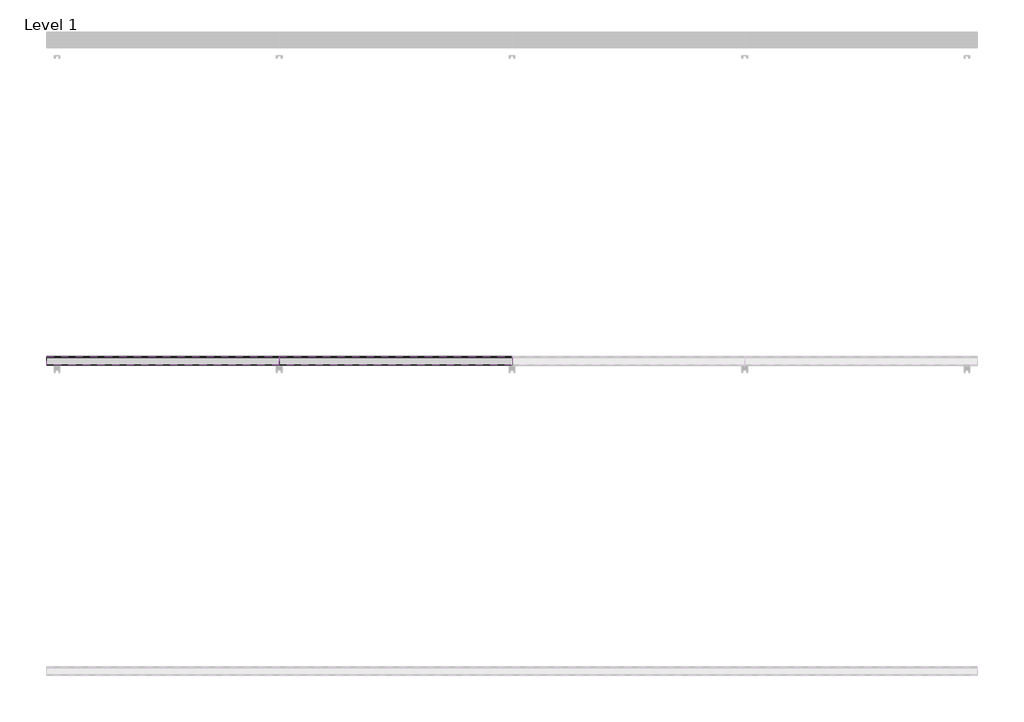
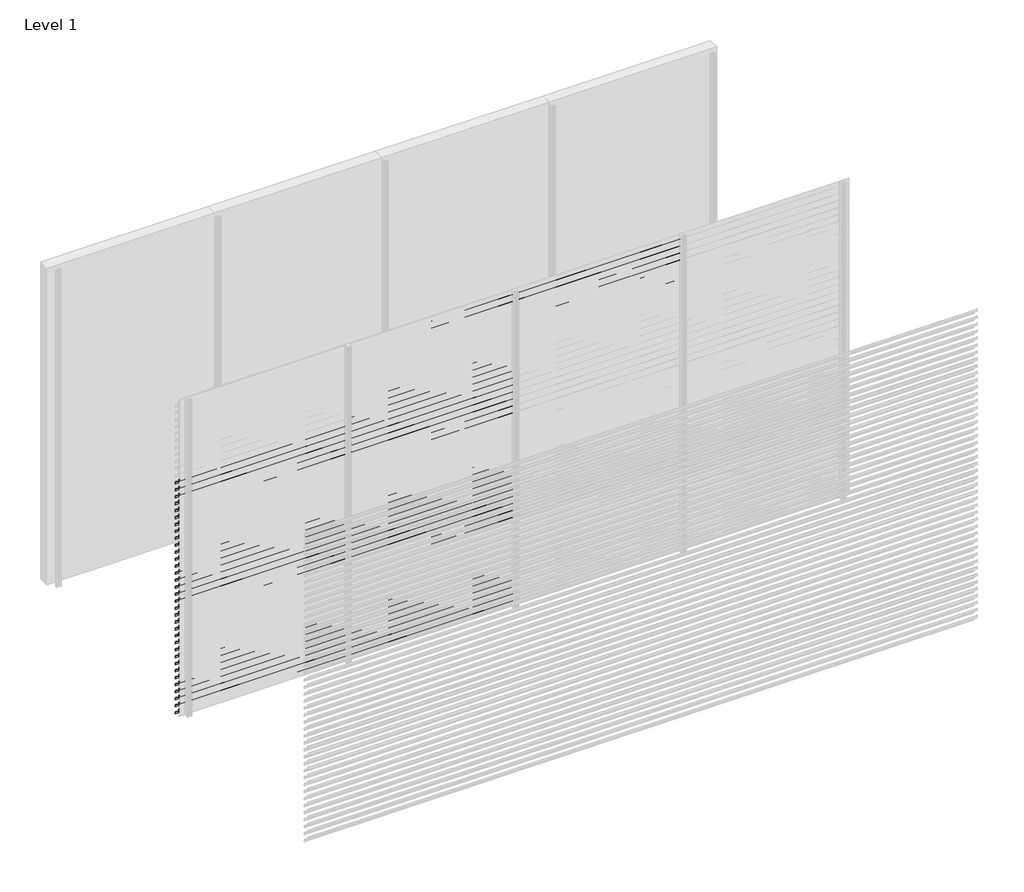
# One storey, part 19 of 25: 87 proxies.
"""IFC4 building model written with IfcOpenShell, lengths in millimetres."""

from ifc_helpers import new_model, si_unit, frame, origin, place, context, project, spatial, polyline, outline, extrude, element, save

model = new_model("IFC4")

# Units and contexts
model_context = context("Model", 3, world=origin())
ifc_project = project(units=[si_unit("LENGTHUNIT", "METRE", prefix="MILLI")], contexts=[model_context])

# Site, building, storey
site = spatial("IfcSite", under=ifc_project)
building = spatial("IfcBuilding", under=site)
storey = spatial("IfcBuildingStorey", under=building, Name="Level 1", Elevation=0.0)

# Proxies
placement = place(None, origin())
element("IfcBuildingElementProxy", 1, Name="Wall Sweeps", at=placement, inside=storey, context=model_context, shape_type="SweptSolid", body=[
    extrude(outline(polyline([(-11943.0, 2187.5), (-11943.0, 2167.5), (-11944.25, 2168.2216933), (-11944.25, 2186.7872415), (-11998.0, 2224.3158044), (-11998.0, 2244.0), (-11996.75, 2244.0), (-11996.75, 2225.0285629), (-11943.0, 2187.5)])), frame((0.0, 0.0, 0.0), z_axis=(1.0, 0.0, 0.0), x_axis=(0.0, 1.0, 0.0)), (0.0, 0.0, 1.0), 1500.0),
])
element("IfcBuildingElementProxy", 2, Name="Wall Sweeps", at=placement, inside=storey, context=model_context, shape_type="SweptSolid", body=[
    extrude(outline(polyline([(-11943.0, 2121.5), (-11943.0, 2101.5), (-11944.25, 2102.2216933), (-11944.25, 2120.7872415), (-11998.0, 2158.3158044), (-11998.0, 2178.0), (-11996.75, 2178.0), (-11996.75, 2159.0285629), (-11943.0, 2121.5)])), frame((0.0, 0.0, 0.0), z_axis=(1.0, 0.0, 0.0), x_axis=(0.0, 1.0, 0.0)), (0.0, 0.0, 1.0), 1500.0),
])
element("IfcBuildingElementProxy", 3, Name="Wall Sweeps", at=placement, inside=storey, context=model_context, shape_type="SweptSolid", body=[
    extrude(outline(polyline([(-11943.0, 2055.5), (-11943.0, 2035.5), (-11944.25, 2036.2216933), (-11944.25, 2054.7872415), (-11998.0, 2092.3158044), (-11998.0, 2112.0), (-11996.75, 2112.0), (-11996.75, 2093.0285629), (-11943.0, 2055.5)])), frame((0.0, 0.0, 0.0), z_axis=(1.0, 0.0, 0.0), x_axis=(0.0, 1.0, 0.0)), (0.0, 0.0, 1.0), 1500.0),
])
element("IfcBuildingElementProxy", 4, Name="Wall Sweeps", at=placement, inside=storey, context=model_context, shape_type="SweptSolid", body=[
    extrude(outline(polyline([(-11943.0, 1989.5), (-11943.0, 1969.5), (-11944.25, 1970.2216933), (-11944.25, 1988.7872415), (-11998.0, 2026.3158044), (-11998.0, 2046.0), (-11996.75, 2046.0), (-11996.75, 2027.0285629), (-11943.0, 1989.5)])), frame((0.0, 0.0, 0.0), z_axis=(1.0, 0.0, 0.0), x_axis=(0.0, 1.0, 0.0)), (0.0, 0.0, 1.0), 1500.0),
])
element("IfcBuildingElementProxy", 5, Name="Wall Sweeps", at=placement, inside=storey, context=model_context, shape_type="SweptSolid", body=[
    extrude(outline(polyline([(-11943.0, 1923.5), (-11943.0, 1903.5), (-11944.25, 1904.2216933), (-11944.25, 1922.7872415), (-11998.0, 1960.3158044), (-11998.0, 1980.0), (-11996.75, 1980.0), (-11996.75, 1961.0285629), (-11943.0, 1923.5)])), frame((0.0, 0.0, 0.0), z_axis=(1.0, 0.0, 0.0), x_axis=(0.0, 1.0, 0.0)), (0.0, 0.0, 1.0), 1500.0),
])
element("IfcBuildingElementProxy", 6, Name="Wall Sweeps", at=placement, inside=storey, context=model_context, shape_type="SweptSolid", body=[
    extrude(outline(polyline([(-11943.0, 1857.5), (-11943.0, 1837.5), (-11944.25, 1838.2216933), (-11944.25, 1856.7872415), (-11998.0, 1894.3158044), (-11998.0, 1914.0), (-11996.75, 1914.0), (-11996.75, 1895.0285629), (-11943.0, 1857.5)])), frame((0.0, 0.0, 0.0), z_axis=(1.0, 0.0, 0.0), x_axis=(0.0, 1.0, 0.0)), (0.0, 0.0, 1.0), 1500.0),
])
element("IfcBuildingElementProxy", 7, Name="Wall Sweeps", at=placement, inside=storey, context=model_context, shape_type="SweptSolid", body=[
    extrude(outline(polyline([(-11943.0, 1791.5), (-11943.0, 1771.5), (-11944.25, 1772.2216933), (-11944.25, 1790.7872415), (-11998.0, 1828.3158044), (-11998.0, 1848.0), (-11996.75, 1848.0), (-11996.75, 1829.0285629), (-11943.0, 1791.5)])), frame((0.0, 0.0, 0.0), z_axis=(1.0, 0.0, 0.0), x_axis=(0.0, 1.0, 0.0)), (0.0, 0.0, 1.0), 1500.0),
])
element("IfcBuildingElementProxy", 8, Name="Wall Sweeps", at=placement, inside=storey, context=model_context, shape_type="SweptSolid", body=[
    extrude(outline(polyline([(-11943.0, 1725.5), (-11943.0, 1705.5), (-11944.25, 1706.2216933), (-11944.25, 1724.7872415), (-11998.0, 1762.3158044), (-11998.0, 1782.0), (-11996.75, 1782.0), (-11996.75, 1763.0285629), (-11943.0, 1725.5)])), frame((0.0, 0.0, 0.0), z_axis=(1.0, 0.0, 0.0), x_axis=(0.0, 1.0, 0.0)), (0.0, 0.0, 1.0), 1500.0),
])
element("IfcBuildingElementProxy", 9, Name="Wall Sweeps", at=placement, inside=storey, context=model_context, shape_type="SweptSolid", body=[
    extrude(outline(polyline([(-11943.0, 1659.5), (-11943.0, 1639.5), (-11944.25, 1640.2216933), (-11944.25, 1658.7872415), (-11998.0, 1696.3158044), (-11998.0, 1716.0), (-11996.75, 1716.0), (-11996.75, 1697.0285629), (-11943.0, 1659.5)])), frame((0.0, 0.0, 0.0), z_axis=(1.0, 0.0, 0.0), x_axis=(0.0, 1.0, 0.0)), (0.0, 0.0, 1.0), 1500.0),
])
element("IfcBuildingElementProxy", 10, Name="Wall Sweeps", at=placement, inside=storey, context=model_context, shape_type="SweptSolid", body=[
    extrude(outline(polyline([(-11943.0, 1593.5), (-11943.0, 1573.5), (-11944.25, 1574.2216933), (-11944.25, 1592.7872415), (-11998.0, 1630.3158044), (-11998.0, 1650.0), (-11996.75, 1650.0), (-11996.75, 1631.0285629), (-11943.0, 1593.5)])), frame((0.0, 0.0, 0.0), z_axis=(1.0, 0.0, 0.0), x_axis=(0.0, 1.0, 0.0)), (0.0, 0.0, 1.0), 1500.0),
])
element("IfcBuildingElementProxy", 11, Name="Wall Sweeps", at=placement, inside=storey, context=model_context, shape_type="SweptSolid", body=[
    extrude(outline(polyline([(-11943.0, 1527.5), (-11943.0, 1507.5), (-11944.25, 1508.2216933), (-11944.25, 1526.7872415), (-11998.0, 1564.3158044), (-11998.0, 1584.0), (-11996.75, 1584.0), (-11996.75, 1565.0285629), (-11943.0, 1527.5)])), frame((0.0, 0.0, 0.0), z_axis=(1.0, 0.0, 0.0), x_axis=(0.0, 1.0, 0.0)), (0.0, 0.0, 1.0), 1500.0),
])
element("IfcBuildingElementProxy", 12, Name="Wall Sweeps", at=placement, inside=storey, context=model_context, shape_type="SweptSolid", body=[
    extrude(outline(polyline([(-11943.0, 1461.5), (-11943.0, 1441.5), (-11944.25, 1442.2216933), (-11944.25, 1460.7872415), (-11998.0, 1498.3158044), (-11998.0, 1518.0), (-11996.75, 1518.0), (-11996.75, 1499.0285629), (-11943.0, 1461.5)])), frame((0.0, 0.0, 0.0), z_axis=(1.0, 0.0, 0.0), x_axis=(0.0, 1.0, 0.0)), (0.0, 0.0, 1.0), 1500.0),
])
element("IfcBuildingElementProxy", 13, Name="Wall Sweeps", at=placement, inside=storey, context=model_context, shape_type="SweptSolid", body=[
    extrude(outline(polyline([(-11943.0, 1395.5), (-11943.0, 1375.5), (-11944.25, 1376.2216933), (-11944.25, 1394.7872415), (-11998.0, 1432.3158044), (-11998.0, 1452.0), (-11996.75, 1452.0), (-11996.75, 1433.0285629), (-11943.0, 1395.5)])), frame((0.0, 0.0, 0.0), z_axis=(1.0, 0.0, 0.0), x_axis=(0.0, 1.0, 0.0)), (0.0, 0.0, 1.0), 1500.0),
])
element("IfcBuildingElementProxy", 14, Name="Wall Sweeps", at=placement, inside=storey, context=model_context, shape_type="SweptSolid", body=[
    extrude(outline(polyline([(-11943.0, 1329.5), (-11943.0, 1309.5), (-11944.25, 1310.2216933), (-11944.25, 1328.7872415), (-11998.0, 1366.3158044), (-11998.0, 1386.0), (-11996.75, 1386.0), (-11996.75, 1367.0285629), (-11943.0, 1329.5)])), frame((0.0, 0.0, 0.0), z_axis=(1.0, 0.0, 0.0), x_axis=(0.0, 1.0, 0.0)), (0.0, 0.0, 1.0), 1500.0),
])
element("IfcBuildingElementProxy", 15, Name="Wall Sweeps", at=placement, inside=storey, context=model_context, shape_type="SweptSolid", body=[
    extrude(outline(polyline([(-11943.0, 1263.5), (-11943.0, 1243.5), (-11944.25, 1244.2216933), (-11944.25, 1262.7872415), (-11998.0, 1300.3158044), (-11998.0, 1320.0), (-11996.75, 1320.0), (-11996.75, 1301.0285629), (-11943.0, 1263.5)])), frame((0.0, 0.0, 0.0), z_axis=(1.0, 0.0, 0.0), x_axis=(0.0, 1.0, 0.0)), (0.0, 0.0, 1.0), 1500.0),
])
element("IfcBuildingElementProxy", 16, Name="Wall Sweeps", at=placement, inside=storey, context=model_context, shape_type="SweptSolid", body=[
    extrude(outline(polyline([(-11943.0, 1197.5), (-11943.0, 1177.5), (-11944.25, 1178.2216933), (-11944.25, 1196.7872415), (-11998.0, 1234.3158044), (-11998.0, 1254.0), (-11996.75, 1254.0), (-11996.75, 1235.0285629), (-11943.0, 1197.5)])), frame((0.0, 0.0, 0.0), z_axis=(1.0, 0.0, 0.0), x_axis=(0.0, 1.0, 0.0)), (0.0, 0.0, 1.0), 1500.0),
])
element("IfcBuildingElementProxy", 17, Name="Wall Sweeps", at=placement, inside=storey, context=model_context, shape_type="SweptSolid", body=[
    extrude(outline(polyline([(-11943.0, 1131.5), (-11943.0, 1111.5), (-11944.25, 1112.2216933), (-11944.25, 1130.7872415), (-11998.0, 1168.3158044), (-11998.0, 1188.0), (-11996.75, 1188.0), (-11996.75, 1169.0285629), (-11943.0, 1131.5)])), frame((0.0, 0.0, 0.0), z_axis=(1.0, 0.0, 0.0), x_axis=(0.0, 1.0, 0.0)), (0.0, 0.0, 1.0), 1500.0),
])
element("IfcBuildingElementProxy", 18, Name="Wall Sweeps", at=placement, inside=storey, context=model_context, shape_type="SweptSolid", body=[
    extrude(outline(polyline([(-11943.0, 1065.5), (-11943.0, 1045.5), (-11944.25, 1046.2216933), (-11944.25, 1064.7872415), (-11998.0, 1102.3158044), (-11998.0, 1122.0), (-11996.75, 1122.0), (-11996.75, 1103.0285629), (-11943.0, 1065.5)])), frame((0.0, 0.0, 0.0), z_axis=(1.0, 0.0, 0.0), x_axis=(0.0, 1.0, 0.0)), (0.0, 0.0, 1.0), 1500.0),
])
element("IfcBuildingElementProxy", 19, Name="Wall Sweeps", at=placement, inside=storey, context=model_context, shape_type="SweptSolid", body=[
    extrude(outline(polyline([(-11943.0, 999.5), (-11943.0, 979.5), (-11944.25, 980.2216933), (-11944.25, 998.7872415), (-11998.0, 1036.3158044), (-11998.0, 1056.0), (-11996.75, 1056.0), (-11996.75, 1037.0285629), (-11943.0, 999.5)])), frame((0.0, 0.0, 0.0), z_axis=(1.0, 0.0, 0.0), x_axis=(0.0, 1.0, 0.0)), (0.0, 0.0, 1.0), 1500.0),
])
element("IfcBuildingElementProxy", 20, Name="Wall Sweeps", at=placement, inside=storey, context=model_context, shape_type="SweptSolid", body=[
    extrude(outline(polyline([(-11943.0, 933.5), (-11943.0, 913.5), (-11944.25, 914.2216933), (-11944.25, 932.7872415), (-11998.0, 970.3158044), (-11998.0, 990.0), (-11996.75, 990.0), (-11996.75, 971.0285629), (-11943.0, 933.5)])), frame((0.0, 0.0, 0.0), z_axis=(1.0, 0.0, 0.0), x_axis=(0.0, 1.0, 0.0)), (0.0, 0.0, 1.0), 1500.0),
])
element("IfcBuildingElementProxy", 21, Name="Wall Sweeps", at=placement, inside=storey, context=model_context, shape_type="SweptSolid", body=[
    extrude(outline(polyline([(-11943.0, 867.5), (-11943.0, 847.5), (-11944.25, 848.2216933), (-11944.25, 866.7872415), (-11998.0, 904.3158044), (-11998.0, 924.0), (-11996.75, 924.0), (-11996.75, 905.0285629), (-11943.0, 867.5)])), frame((0.0, 0.0, 0.0), z_axis=(1.0, 0.0, 0.0), x_axis=(0.0, 1.0, 0.0)), (0.0, 0.0, 1.0), 1500.0),
])
element("IfcBuildingElementProxy", 22, Name="Wall Sweeps", at=placement, inside=storey, context=model_context, shape_type="SweptSolid", body=[
    extrude(outline(polyline([(-11943.0, 801.5), (-11943.0, 781.5), (-11944.25, 782.2216933), (-11944.25, 800.7872415), (-11998.0, 838.3158044), (-11998.0, 858.0), (-11996.75, 858.0), (-11996.75, 839.0285629), (-11943.0, 801.5)])), frame((0.0, 0.0, 0.0), z_axis=(1.0, 0.0, 0.0), x_axis=(0.0, 1.0, 0.0)), (0.0, 0.0, 1.0), 1500.0),
])
element("IfcBuildingElementProxy", 23, Name="Wall Sweeps", at=placement, inside=storey, context=model_context, shape_type="SweptSolid", body=[
    extrude(outline(polyline([(-11943.0, 735.5), (-11943.0, 715.5), (-11944.25, 716.2216933), (-11944.25, 734.7872415), (-11998.0, 772.3158044), (-11998.0, 792.0), (-11996.75, 792.0), (-11996.75, 773.0285629), (-11943.0, 735.5)])), frame((0.0, 0.0, 0.0), z_axis=(1.0, 0.0, 0.0), x_axis=(0.0, 1.0, 0.0)), (0.0, 0.0, 1.0), 1500.0),
])
element("IfcBuildingElementProxy", 24, Name="Wall Sweeps", at=placement, inside=storey, context=model_context, shape_type="SweptSolid", body=[
    extrude(outline(polyline([(-11943.0, 669.5), (-11943.0, 649.5), (-11944.25, 650.2216933), (-11944.25, 668.7872415), (-11998.0, 706.3158044), (-11998.0, 726.0), (-11996.75, 726.0), (-11996.75, 707.0285629), (-11943.0, 669.5)])), frame((0.0, 0.0, 0.0), z_axis=(1.0, 0.0, 0.0), x_axis=(0.0, 1.0, 0.0)), (0.0, 0.0, 1.0), 1500.0),
])
element("IfcBuildingElementProxy", 25, Name="Wall Sweeps", at=placement, inside=storey, context=model_context, shape_type="SweptSolid", body=[
    extrude(outline(polyline([(-11943.0, 603.5), (-11943.0, 583.5), (-11944.25, 584.2216933), (-11944.25, 602.7872415), (-11998.0, 640.3158044), (-11998.0, 660.0), (-11996.75, 660.0), (-11996.75, 641.0285629), (-11943.0, 603.5)])), frame((0.0, 0.0, 0.0), z_axis=(1.0, 0.0, 0.0), x_axis=(0.0, 1.0, 0.0)), (0.0, 0.0, 1.0), 1500.0),
])
element("IfcBuildingElementProxy", 26, Name="Wall Sweeps", at=placement, inside=storey, context=model_context, shape_type="SweptSolid", body=[
    extrude(outline(polyline([(-11943.0, 537.5), (-11943.0, 517.5), (-11944.25, 518.2216933), (-11944.25, 536.7872415), (-11998.0, 574.3158044), (-11998.0, 594.0), (-11996.75, 594.0), (-11996.75, 575.0285629), (-11943.0, 537.5)])), frame((0.0, 0.0, 0.0), z_axis=(1.0, 0.0, 0.0), x_axis=(0.0, 1.0, 0.0)), (0.0, 0.0, 1.0), 1500.0),
])
element("IfcBuildingElementProxy", 27, Name="Wall Sweeps", at=placement, inside=storey, context=model_context, shape_type="SweptSolid", body=[
    extrude(outline(polyline([(-11943.0, 471.5), (-11943.0, 451.5), (-11944.25, 452.2216933), (-11944.25, 470.7872415), (-11998.0, 508.3158044), (-11998.0, 528.0), (-11996.75, 528.0), (-11996.75, 509.0285629), (-11943.0, 471.5)])), frame((0.0, 0.0, 0.0), z_axis=(1.0, 0.0, 0.0), x_axis=(0.0, 1.0, 0.0)), (0.0, 0.0, 1.0), 1500.0),
])
element("IfcBuildingElementProxy", 28, Name="Wall Sweeps", at=placement, inside=storey, context=model_context, shape_type="SweptSolid", body=[
    extrude(outline(polyline([(-11943.0, 405.5), (-11943.0, 385.5), (-11944.25, 386.2216933), (-11944.25, 404.7872415), (-11998.0, 442.3158044), (-11998.0, 462.0), (-11996.75, 462.0), (-11996.75, 443.0285629), (-11943.0, 405.5)])), frame((0.0, 0.0, 0.0), z_axis=(1.0, 0.0, 0.0), x_axis=(0.0, 1.0, 0.0)), (0.0, 0.0, 1.0), 1500.0),
])
element("IfcBuildingElementProxy", 29, Name="Wall Sweeps", at=placement, inside=storey, context=model_context, shape_type="SweptSolid", body=[
    extrude(outline(polyline([(-11943.0, 339.5), (-11943.0, 319.5), (-11944.25, 320.2216933), (-11944.25, 338.7872415), (-11998.0, 376.3158044), (-11998.0, 396.0), (-11996.75, 396.0), (-11996.75, 377.0285629), (-11943.0, 339.5)])), frame((0.0, 0.0, 0.0), z_axis=(1.0, 0.0, 0.0), x_axis=(0.0, 1.0, 0.0)), (0.0, 0.0, 1.0), 1500.0),
])
element("IfcBuildingElementProxy", 30, Name="Wall Sweeps", at=placement, inside=storey, context=model_context, shape_type="SweptSolid", body=[
    extrude(outline(polyline([(-11943.0, 273.5), (-11943.0, 253.5), (-11944.25, 254.2216933), (-11944.25, 272.7872415), (-11998.0, 310.3158044), (-11998.0, 330.0), (-11996.75, 330.0), (-11996.75, 311.0285629), (-11943.0, 273.5)])), frame((0.0, 0.0, 0.0), z_axis=(1.0, 0.0, 0.0), x_axis=(0.0, 1.0, 0.0)), (0.0, 0.0, 1.0), 1500.0),
])
element("IfcBuildingElementProxy", 31, Name="Wall Sweeps", at=placement, inside=storey, context=model_context, shape_type="SweptSolid", body=[
    extrude(outline(polyline([(-11943.0, 207.5), (-11943.0, 187.5), (-11944.25, 188.2216933), (-11944.25, 206.7872415), (-11998.0, 244.3158044), (-11998.0, 264.0), (-11996.75, 264.0), (-11996.75, 245.0285629), (-11943.0, 207.5)])), frame((0.0, 0.0, 0.0), z_axis=(1.0, 0.0, 0.0), x_axis=(0.0, 1.0, 0.0)), (0.0, 0.0, 1.0), 1500.0),
])
element("IfcBuildingElementProxy", 32, Name="Wall Sweeps", at=placement, inside=storey, context=model_context, shape_type="SweptSolid", body=[
    extrude(outline(polyline([(-11943.0, 141.5), (-11943.0, 121.5), (-11944.25, 122.2216933), (-11944.25, 140.7872415), (-11998.0, 178.3158044), (-11998.0, 198.0), (-11996.75, 198.0), (-11996.75, 179.0285629), (-11943.0, 141.5)])), frame((0.0, 0.0, 0.0), z_axis=(1.0, 0.0, 0.0), x_axis=(0.0, 1.0, 0.0)), (0.0, 0.0, 1.0), 1500.0),
])
element("IfcBuildingElementProxy", 33, Name="Wall Sweeps", at=placement, inside=storey, context=model_context, shape_type="SweptSolid", body=[
    extrude(outline(polyline([(-11943.0, 75.5), (-11943.0, 55.5), (-11944.25, 56.2216933), (-11944.25, 74.7872415), (-11998.0, 112.3158044), (-11998.0, 132.0), (-11996.75, 132.0), (-11996.75, 113.0285629), (-11943.0, 75.5)])), frame((0.0, 0.0, 0.0), z_axis=(1.0, 0.0, 0.0), x_axis=(0.0, 1.0, 0.0)), (0.0, 0.0, 1.0), 1500.0),
])
element("IfcBuildingElementProxy", 34, Name="Wall Sweeps", at=placement, inside=storey, context=model_context, shape_type="SweptSolid", body=[
    extrude(outline(polyline([(-11943.0, 9.5), (-11943.0, -10.5), (-11944.25, -9.7783067), (-11944.25, 8.7872415), (-11998.0, 46.3158044), (-11998.0, 66.0), (-11996.75, 66.0), (-11996.75, 47.0285629), (-11943.0, 9.5)])), frame((0.0, 0.0, 0.0), z_axis=(1.0, 0.0, 0.0), x_axis=(0.0, 1.0, 0.0)), (0.0, 0.0, 1.0), 1500.0),
])
element("IfcBuildingElementProxy", 35, Name="Wall Sweeps", at=placement, inside=storey, context=model_context, shape_type="SweptSolid", body=[
    extrude(outline(polyline([(-11943.0, 2913.5), (-11943.0, 2893.5), (-11944.25, 2894.2216933), (-11944.25, 2912.7872415), (-11998.0, 2950.3158044), (-11998.0, 2970.0), (-11996.75, 2970.0), (-11996.75, 2951.0285629), (-11943.0, 2913.5)])), frame((1500.0, 0.0, 0.0), z_axis=(1.0, 0.0, 0.0), x_axis=(0.0, 1.0, 0.0)), (0.0, 0.0, 1.0), 1500.0),
])
element("IfcBuildingElementProxy", 36, Name="Wall Sweeps", at=placement, inside=storey, context=model_context, shape_type="SweptSolid", body=[
    extrude(outline(polyline([(-11943.0, 2847.5), (-11943.0, 2827.5), (-11944.25, 2828.2216933), (-11944.25, 2846.7872415), (-11998.0, 2884.3158044), (-11998.0, 2904.0), (-11996.75, 2904.0), (-11996.75, 2885.0285629), (-11943.0, 2847.5)])), frame((1500.0, 0.0, 0.0), z_axis=(1.0, 0.0, 0.0), x_axis=(0.0, 1.0, 0.0)), (0.0, 0.0, 1.0), 1500.0),
])
element("IfcBuildingElementProxy", 37, Name="Wall Sweeps", at=placement, inside=storey, context=model_context, shape_type="SweptSolid", body=[
    extrude(outline(polyline([(-11943.0, 2781.5), (-11943.0, 2761.5), (-11944.25, 2762.2216933), (-11944.25, 2780.7872415), (-11998.0, 2818.3158044), (-11998.0, 2838.0), (-11996.75, 2838.0), (-11996.75, 2819.0285629), (-11943.0, 2781.5)])), frame((1500.0, 0.0, 0.0), z_axis=(1.0, 0.0, 0.0), x_axis=(0.0, 1.0, 0.0)), (0.0, 0.0, 1.0), 1500.0),
])
element("IfcBuildingElementProxy", 38, Name="Wall Sweeps", at=placement, inside=storey, context=model_context, shape_type="SweptSolid", body=[
    extrude(outline(polyline([(-11943.0, 2715.5), (-11943.0, 2695.5), (-11944.25, 2696.2216933), (-11944.25, 2714.7872415), (-11998.0, 2752.3158044), (-11998.0, 2772.0), (-11996.75, 2772.0), (-11996.75, 2753.0285629), (-11943.0, 2715.5)])), frame((1500.0, 0.0, 0.0), z_axis=(1.0, 0.0, 0.0), x_axis=(0.0, 1.0, 0.0)), (0.0, 0.0, 1.0), 1500.0),
])
element("IfcBuildingElementProxy", 39, Name="Wall Sweeps", at=placement, inside=storey, context=model_context, shape_type="SweptSolid", body=[
    extrude(outline(polyline([(-11943.0, 2649.5), (-11943.0, 2629.5), (-11944.25, 2630.2216933), (-11944.25, 2648.7872415), (-11998.0, 2686.3158044), (-11998.0, 2706.0), (-11996.75, 2706.0), (-11996.75, 2687.0285629), (-11943.0, 2649.5)])), frame((1500.0, 0.0, 0.0), z_axis=(1.0, 0.0, 0.0), x_axis=(0.0, 1.0, 0.0)), (0.0, 0.0, 1.0), 1500.0),
])
element("IfcBuildingElementProxy", 40, Name="Wall Sweeps", at=placement, inside=storey, context=model_context, shape_type="SweptSolid", body=[
    extrude(outline(polyline([(-11943.0, 2583.5), (-11943.0, 2563.5), (-11944.25, 2564.2216933), (-11944.25, 2582.7872415), (-11998.0, 2620.3158044), (-11998.0, 2640.0), (-11996.75, 2640.0), (-11996.75, 2621.0285629), (-11943.0, 2583.5)])), frame((1500.0, 0.0, 0.0), z_axis=(1.0, 0.0, 0.0), x_axis=(0.0, 1.0, 0.0)), (0.0, 0.0, 1.0), 1500.0),
])
element("IfcBuildingElementProxy", 41, Name="Wall Sweeps", at=placement, inside=storey, context=model_context, shape_type="SweptSolid", body=[
    extrude(outline(polyline([(-11943.0, 2517.5), (-11943.0, 2497.5), (-11944.25, 2498.2216933), (-11944.25, 2516.7872415), (-11998.0, 2554.3158044), (-11998.0, 2574.0), (-11996.75, 2574.0), (-11996.75, 2555.0285629), (-11943.0, 2517.5)])), frame((1500.0, 0.0, 0.0), z_axis=(1.0, 0.0, 0.0), x_axis=(0.0, 1.0, 0.0)), (0.0, 0.0, 1.0), 1500.0),
])
element("IfcBuildingElementProxy", 42, Name="Wall Sweeps", at=placement, inside=storey, context=model_context, shape_type="SweptSolid", body=[
    extrude(outline(polyline([(-11943.0, 2451.5), (-11943.0, 2431.5), (-11944.25, 2432.2216933), (-11944.25, 2450.7872415), (-11998.0, 2488.3158044), (-11998.0, 2508.0), (-11996.75, 2508.0), (-11996.75, 2489.0285629), (-11943.0, 2451.5)])), frame((1500.0, 0.0, 0.0), z_axis=(1.0, 0.0, 0.0), x_axis=(0.0, 1.0, 0.0)), (0.0, 0.0, 1.0), 1500.0),
])
element("IfcBuildingElementProxy", 43, Name="Wall Sweeps", at=placement, inside=storey, context=model_context, shape_type="SweptSolid", body=[
    extrude(outline(polyline([(-11943.0, 2385.5), (-11943.0, 2365.5), (-11944.25, 2366.2216933), (-11944.25, 2384.7872415), (-11998.0, 2422.3158044), (-11998.0, 2442.0), (-11996.75, 2442.0), (-11996.75, 2423.0285629), (-11943.0, 2385.5)])), frame((1500.0, 0.0, 0.0), z_axis=(1.0, 0.0, 0.0), x_axis=(0.0, 1.0, 0.0)), (0.0, 0.0, 1.0), 1500.0),
])
element("IfcBuildingElementProxy", 44, Name="Wall Sweeps", at=placement, inside=storey, context=model_context, shape_type="SweptSolid", body=[
    extrude(outline(polyline([(-11943.0, 2319.5), (-11943.0, 2299.5), (-11944.25, 2300.2216933), (-11944.25, 2318.7872415), (-11998.0, 2356.3158044), (-11998.0, 2376.0), (-11996.75, 2376.0), (-11996.75, 2357.0285629), (-11943.0, 2319.5)])), frame((1500.0, 0.0, 0.0), z_axis=(1.0, 0.0, 0.0), x_axis=(0.0, 1.0, 0.0)), (0.0, 0.0, 1.0), 1500.0),
])
element("IfcBuildingElementProxy", 45, Name="Wall Sweeps", at=placement, inside=storey, context=model_context, shape_type="SweptSolid", body=[
    extrude(outline(polyline([(-11943.0, 2253.5), (-11943.0, 2233.5), (-11944.25, 2234.2216933), (-11944.25, 2252.7872415), (-11998.0, 2290.3158044), (-11998.0, 2310.0), (-11996.75, 2310.0), (-11996.75, 2291.0285629), (-11943.0, 2253.5)])), frame((1500.0, 0.0, 0.0), z_axis=(1.0, 0.0, 0.0), x_axis=(0.0, 1.0, 0.0)), (0.0, 0.0, 1.0), 1500.0),
])
element("IfcBuildingElementProxy", 46, Name="Wall Sweeps", at=placement, inside=storey, context=model_context, shape_type="SweptSolid", body=[
    extrude(outline(polyline([(-11943.0, 2187.5), (-11943.0, 2167.5), (-11944.25, 2168.2216933), (-11944.25, 2186.7872415), (-11998.0, 2224.3158044), (-11998.0, 2244.0), (-11996.75, 2244.0), (-11996.75, 2225.0285629), (-11943.0, 2187.5)])), frame((1500.0, 0.0, 0.0), z_axis=(1.0, 0.0, 0.0), x_axis=(0.0, 1.0, 0.0)), (0.0, 0.0, 1.0), 1500.0),
])
element("IfcBuildingElementProxy", 47, Name="Wall Sweeps", at=placement, inside=storey, context=model_context, shape_type="SweptSolid", body=[
    extrude(outline(polyline([(-11943.0, 2121.5), (-11943.0, 2101.5), (-11944.25, 2102.2216933), (-11944.25, 2120.7872415), (-11998.0, 2158.3158044), (-11998.0, 2178.0), (-11996.75, 2178.0), (-11996.75, 2159.0285629), (-11943.0, 2121.5)])), frame((1500.0, 0.0, 0.0), z_axis=(1.0, 0.0, 0.0), x_axis=(0.0, 1.0, 0.0)), (0.0, 0.0, 1.0), 1500.0),
])
element("IfcBuildingElementProxy", 48, Name="Wall Sweeps", at=placement, inside=storey, context=model_context, shape_type="SweptSolid", body=[
    extrude(outline(polyline([(-11943.0, 2055.5), (-11943.0, 2035.5), (-11944.25, 2036.2216933), (-11944.25, 2054.7872415), (-11998.0, 2092.3158044), (-11998.0, 2112.0), (-11996.75, 2112.0), (-11996.75, 2093.0285629), (-11943.0, 2055.5)])), frame((1500.0, 0.0, 0.0), z_axis=(1.0, 0.0, 0.0), x_axis=(0.0, 1.0, 0.0)), (0.0, 0.0, 1.0), 1500.0),
])
element("IfcBuildingElementProxy", 49, Name="Wall Sweeps", at=placement, inside=storey, context=model_context, shape_type="SweptSolid", body=[
    extrude(outline(polyline([(-11943.0, 1989.5), (-11943.0, 1969.5), (-11944.25, 1970.2216933), (-11944.25, 1988.7872415), (-11998.0, 2026.3158044), (-11998.0, 2046.0), (-11996.75, 2046.0), (-11996.75, 2027.0285629), (-11943.0, 1989.5)])), frame((1500.0, 0.0, 0.0), z_axis=(1.0, 0.0, 0.0), x_axis=(0.0, 1.0, 0.0)), (0.0, 0.0, 1.0), 1500.0),
])
element("IfcBuildingElementProxy", 50, Name="Wall Sweeps", at=placement, inside=storey, context=model_context, shape_type="SweptSolid", body=[
    extrude(outline(polyline([(-11943.0, 1923.5), (-11943.0, 1903.5), (-11944.25, 1904.2216933), (-11944.25, 1922.7872415), (-11998.0, 1960.3158044), (-11998.0, 1980.0), (-11996.75, 1980.0), (-11996.75, 1961.0285629), (-11943.0, 1923.5)])), frame((1500.0, 0.0, 0.0), z_axis=(1.0, 0.0, 0.0), x_axis=(0.0, 1.0, 0.0)), (0.0, 0.0, 1.0), 1500.0),
])
element("IfcBuildingElementProxy", 51, Name="Wall Sweeps", at=placement, inside=storey, context=model_context, shape_type="SweptSolid", body=[
    extrude(outline(polyline([(-11943.0, 1857.5), (-11943.0, 1837.5), (-11944.25, 1838.2216933), (-11944.25, 1856.7872415), (-11998.0, 1894.3158044), (-11998.0, 1914.0), (-11996.75, 1914.0), (-11996.75, 1895.0285629), (-11943.0, 1857.5)])), frame((1500.0, 0.0, 0.0), z_axis=(1.0, 0.0, 0.0), x_axis=(0.0, 1.0, 0.0)), (0.0, 0.0, 1.0), 1500.0),
])
element("IfcBuildingElementProxy", 52, Name="Wall Sweeps", at=placement, inside=storey, context=model_context, shape_type="SweptSolid", body=[
    extrude(outline(polyline([(-11943.0, 1791.5), (-11943.0, 1771.5), (-11944.25, 1772.2216933), (-11944.25, 1790.7872415), (-11998.0, 1828.3158044), (-11998.0, 1848.0), (-11996.75, 1848.0), (-11996.75, 1829.0285629), (-11943.0, 1791.5)])), frame((1500.0, 0.0, 0.0), z_axis=(1.0, 0.0, 0.0), x_axis=(0.0, 1.0, 0.0)), (0.0, 0.0, 1.0), 1500.0),
])
element("IfcBuildingElementProxy", 53, Name="Wall Sweeps", at=placement, inside=storey, context=model_context, shape_type="SweptSolid", body=[
    extrude(outline(polyline([(-11943.0, 1725.5), (-11943.0, 1705.5), (-11944.25, 1706.2216933), (-11944.25, 1724.7872415), (-11998.0, 1762.3158044), (-11998.0, 1782.0), (-11996.75, 1782.0), (-11996.75, 1763.0285629), (-11943.0, 1725.5)])), frame((1500.0, 0.0, 0.0), z_axis=(1.0, 0.0, 0.0), x_axis=(0.0, 1.0, 0.0)), (0.0, 0.0, 1.0), 1500.0),
])
element("IfcBuildingElementProxy", 54, Name="Wall Sweeps", at=placement, inside=storey, context=model_context, shape_type="SweptSolid", body=[
    extrude(outline(polyline([(-11943.0, 1659.5), (-11943.0, 1639.5), (-11944.25, 1640.2216933), (-11944.25, 1658.7872415), (-11998.0, 1696.3158044), (-11998.0, 1716.0), (-11996.75, 1716.0), (-11996.75, 1697.0285629), (-11943.0, 1659.5)])), frame((1500.0, 0.0, 0.0), z_axis=(1.0, 0.0, 0.0), x_axis=(0.0, 1.0, 0.0)), (0.0, 0.0, 1.0), 1500.0),
])
element("IfcBuildingElementProxy", 55, Name="Wall Sweeps", at=placement, inside=storey, context=model_context, shape_type="SweptSolid", body=[
    extrude(outline(polyline([(-11943.0, 1593.5), (-11943.0, 1573.5), (-11944.25, 1574.2216933), (-11944.25, 1592.7872415), (-11998.0, 1630.3158044), (-11998.0, 1650.0), (-11996.75, 1650.0), (-11996.75, 1631.0285629), (-11943.0, 1593.5)])), frame((1500.0, 0.0, 0.0), z_axis=(1.0, 0.0, 0.0), x_axis=(0.0, 1.0, 0.0)), (0.0, 0.0, 1.0), 1500.0),
])
element("IfcBuildingElementProxy", 56, Name="Wall Sweeps", at=placement, inside=storey, context=model_context, shape_type="SweptSolid", body=[
    extrude(outline(polyline([(-11943.0, 1527.5), (-11943.0, 1507.5), (-11944.25, 1508.2216933), (-11944.25, 1526.7872415), (-11998.0, 1564.3158044), (-11998.0, 1584.0), (-11996.75, 1584.0), (-11996.75, 1565.0285629), (-11943.0, 1527.5)])), frame((1500.0, 0.0, 0.0), z_axis=(1.0, 0.0, 0.0), x_axis=(0.0, 1.0, 0.0)), (0.0, 0.0, 1.0), 1500.0),
])
element("IfcBuildingElementProxy", 57, Name="Wall Sweeps", at=placement, inside=storey, context=model_context, shape_type="SweptSolid", body=[
    extrude(outline(polyline([(-11943.0, 1461.5), (-11943.0, 1441.5), (-11944.25, 1442.2216933), (-11944.25, 1460.7872415), (-11998.0, 1498.3158044), (-11998.0, 1518.0), (-11996.75, 1518.0), (-11996.75, 1499.0285629), (-11943.0, 1461.5)])), frame((1500.0, 0.0, 0.0), z_axis=(1.0, 0.0, 0.0), x_axis=(0.0, 1.0, 0.0)), (0.0, 0.0, 1.0), 1500.0),
])
element("IfcBuildingElementProxy", 58, Name="Wall Sweeps", at=placement, inside=storey, context=model_context, shape_type="SweptSolid", body=[
    extrude(outline(polyline([(-11943.0, 1395.5), (-11943.0, 1375.5), (-11944.25, 1376.2216933), (-11944.25, 1394.7872415), (-11998.0, 1432.3158044), (-11998.0, 1452.0), (-11996.75, 1452.0), (-11996.75, 1433.0285629), (-11943.0, 1395.5)])), frame((1500.0, 0.0, 0.0), z_axis=(1.0, 0.0, 0.0), x_axis=(0.0, 1.0, 0.0)), (0.0, 0.0, 1.0), 1500.0),
])
element("IfcBuildingElementProxy", 59, Name="Wall Sweeps", at=placement, inside=storey, context=model_context, shape_type="SweptSolid", body=[
    extrude(outline(polyline([(-11943.0, 1329.5), (-11943.0, 1309.5), (-11944.25, 1310.2216933), (-11944.25, 1328.7872415), (-11998.0, 1366.3158044), (-11998.0, 1386.0), (-11996.75, 1386.0), (-11996.75, 1367.0285629), (-11943.0, 1329.5)])), frame((1500.0, 0.0, 0.0), z_axis=(1.0, 0.0, 0.0), x_axis=(0.0, 1.0, 0.0)), (0.0, 0.0, 1.0), 1500.0),
])
element("IfcBuildingElementProxy", 60, Name="Wall Sweeps", at=placement, inside=storey, context=model_context, shape_type="SweptSolid", body=[
    extrude(outline(polyline([(-11943.0, 1263.5), (-11943.0, 1243.5), (-11944.25, 1244.2216933), (-11944.25, 1262.7872415), (-11998.0, 1300.3158044), (-11998.0, 1320.0), (-11996.75, 1320.0), (-11996.75, 1301.0285629), (-11943.0, 1263.5)])), frame((1500.0, 0.0, 0.0), z_axis=(1.0, 0.0, 0.0), x_axis=(0.0, 1.0, 0.0)), (0.0, 0.0, 1.0), 1500.0),
])
element("IfcBuildingElementProxy", 61, Name="Wall Sweeps", at=placement, inside=storey, context=model_context, shape_type="SweptSolid", body=[
    extrude(outline(polyline([(-11943.0, 1197.5), (-11943.0, 1177.5), (-11944.25, 1178.2216933), (-11944.25, 1196.7872415), (-11998.0, 1234.3158044), (-11998.0, 1254.0), (-11996.75, 1254.0), (-11996.75, 1235.0285629), (-11943.0, 1197.5)])), frame((1500.0, 0.0, 0.0), z_axis=(1.0, 0.0, 0.0), x_axis=(0.0, 1.0, 0.0)), (0.0, 0.0, 1.0), 1500.0),
])
element("IfcBuildingElementProxy", 62, Name="Wall Sweeps", at=placement, inside=storey, context=model_context, shape_type="SweptSolid", body=[
    extrude(outline(polyline([(-11943.0, 1131.5), (-11943.0, 1111.5), (-11944.25, 1112.2216933), (-11944.25, 1130.7872415), (-11998.0, 1168.3158044), (-11998.0, 1188.0), (-11996.75, 1188.0), (-11996.75, 1169.0285629), (-11943.0, 1131.5)])), frame((1500.0, 0.0, 0.0), z_axis=(1.0, 0.0, 0.0), x_axis=(0.0, 1.0, 0.0)), (0.0, 0.0, 1.0), 1500.0),
])
element("IfcBuildingElementProxy", 63, Name="Wall Sweeps", at=placement, inside=storey, context=model_context, shape_type="SweptSolid", body=[
    extrude(outline(polyline([(-11943.0, 1065.5), (-11943.0, 1045.5), (-11944.25, 1046.2216933), (-11944.25, 1064.7872415), (-11998.0, 1102.3158044), (-11998.0, 1122.0), (-11996.75, 1122.0), (-11996.75, 1103.0285629), (-11943.0, 1065.5)])), frame((1500.0, 0.0, 0.0), z_axis=(1.0, 0.0, 0.0), x_axis=(0.0, 1.0, 0.0)), (0.0, 0.0, 1.0), 1500.0),
])
element("IfcBuildingElementProxy", 64, Name="Wall Sweeps", at=placement, inside=storey, context=model_context, shape_type="SweptSolid", body=[
    extrude(outline(polyline([(-11943.0, 999.5), (-11943.0, 979.5), (-11944.25, 980.2216933), (-11944.25, 998.7872415), (-11998.0, 1036.3158044), (-11998.0, 1056.0), (-11996.75, 1056.0), (-11996.75, 1037.0285629), (-11943.0, 999.5)])), frame((1500.0, 0.0, 0.0), z_axis=(1.0, 0.0, 0.0), x_axis=(0.0, 1.0, 0.0)), (0.0, 0.0, 1.0), 1500.0),
])
element("IfcBuildingElementProxy", 65, Name="Wall Sweeps", at=placement, inside=storey, context=model_context, shape_type="SweptSolid", body=[
    extrude(outline(polyline([(-11943.0, 933.5), (-11943.0, 913.5), (-11944.25, 914.2216933), (-11944.25, 932.7872415), (-11998.0, 970.3158044), (-11998.0, 990.0), (-11996.75, 990.0), (-11996.75, 971.0285629), (-11943.0, 933.5)])), frame((1500.0, 0.0, 0.0), z_axis=(1.0, 0.0, 0.0), x_axis=(0.0, 1.0, 0.0)), (0.0, 0.0, 1.0), 1500.0),
])
element("IfcBuildingElementProxy", 66, Name="Wall Sweeps", at=placement, inside=storey, context=model_context, shape_type="SweptSolid", body=[
    extrude(outline(polyline([(-11943.0, 867.5), (-11943.0, 847.5), (-11944.25, 848.2216933), (-11944.25, 866.7872415), (-11998.0, 904.3158044), (-11998.0, 924.0), (-11996.75, 924.0), (-11996.75, 905.0285629), (-11943.0, 867.5)])), frame((1500.0, 0.0, 0.0), z_axis=(1.0, 0.0, 0.0), x_axis=(0.0, 1.0, 0.0)), (0.0, 0.0, 1.0), 1500.0),
])
element("IfcBuildingElementProxy", 67, Name="Wall Sweeps", at=placement, inside=storey, context=model_context, shape_type="SweptSolid", body=[
    extrude(outline(polyline([(-11943.0, 801.5), (-11943.0, 781.5), (-11944.25, 782.2216933), (-11944.25, 800.7872415), (-11998.0, 838.3158044), (-11998.0, 858.0), (-11996.75, 858.0), (-11996.75, 839.0285629), (-11943.0, 801.5)])), frame((1500.0, 0.0, 0.0), z_axis=(1.0, 0.0, 0.0), x_axis=(0.0, 1.0, 0.0)), (0.0, 0.0, 1.0), 1500.0),
])
element("IfcBuildingElementProxy", 68, Name="Wall Sweeps", at=placement, inside=storey, context=model_context, shape_type="SweptSolid", body=[
    extrude(outline(polyline([(-11943.0, 735.5), (-11943.0, 715.5), (-11944.25, 716.2216933), (-11944.25, 734.7872415), (-11998.0, 772.3158044), (-11998.0, 792.0), (-11996.75, 792.0), (-11996.75, 773.0285629), (-11943.0, 735.5)])), frame((1500.0, 0.0, 0.0), z_axis=(1.0, 0.0, 0.0), x_axis=(0.0, 1.0, 0.0)), (0.0, 0.0, 1.0), 1500.0),
])
element("IfcBuildingElementProxy", 69, Name="Wall Sweeps", at=placement, inside=storey, context=model_context, shape_type="SweptSolid", body=[
    extrude(outline(polyline([(-11943.0, 669.5), (-11943.0, 649.5), (-11944.25, 650.2216933), (-11944.25, 668.7872415), (-11998.0, 706.3158044), (-11998.0, 726.0), (-11996.75, 726.0), (-11996.75, 707.0285629), (-11943.0, 669.5)])), frame((1500.0, 0.0, 0.0), z_axis=(1.0, 0.0, 0.0), x_axis=(0.0, 1.0, 0.0)), (0.0, 0.0, 1.0), 1500.0),
])
element("IfcBuildingElementProxy", 70, Name="Wall Sweeps", at=placement, inside=storey, context=model_context, shape_type="SweptSolid", body=[
    extrude(outline(polyline([(-11943.0, 603.5), (-11943.0, 583.5), (-11944.25, 584.2216933), (-11944.25, 602.7872415), (-11998.0, 640.3158044), (-11998.0, 660.0), (-11996.75, 660.0), (-11996.75, 641.0285629), (-11943.0, 603.5)])), frame((1500.0, 0.0, 0.0), z_axis=(1.0, 0.0, 0.0), x_axis=(0.0, 1.0, 0.0)), (0.0, 0.0, 1.0), 1500.0),
])
element("IfcBuildingElementProxy", 71, Name="Wall Sweeps", at=placement, inside=storey, context=model_context, shape_type="SweptSolid", body=[
    extrude(outline(polyline([(-11943.0, 537.5), (-11943.0, 517.5), (-11944.25, 518.2216933), (-11944.25, 536.7872415), (-11998.0, 574.3158044), (-11998.0, 594.0), (-11996.75, 594.0), (-11996.75, 575.0285629), (-11943.0, 537.5)])), frame((1500.0, 0.0, 0.0), z_axis=(1.0, 0.0, 0.0), x_axis=(0.0, 1.0, 0.0)), (0.0, 0.0, 1.0), 1500.0),
])
element("IfcBuildingElementProxy", 72, Name="Wall Sweeps", at=placement, inside=storey, context=model_context, shape_type="SweptSolid", body=[
    extrude(outline(polyline([(-11943.0, 471.5), (-11943.0, 451.5), (-11944.25, 452.2216933), (-11944.25, 470.7872415), (-11998.0, 508.3158044), (-11998.0, 528.0), (-11996.75, 528.0), (-11996.75, 509.0285629), (-11943.0, 471.5)])), frame((1500.0, 0.0, 0.0), z_axis=(1.0, 0.0, 0.0), x_axis=(0.0, 1.0, 0.0)), (0.0, 0.0, 1.0), 1500.0),
])
element("IfcBuildingElementProxy", 73, Name="Wall Sweeps", at=placement, inside=storey, context=model_context, shape_type="SweptSolid", body=[
    extrude(outline(polyline([(-11943.0, 405.5), (-11943.0, 385.5), (-11944.25, 386.2216933), (-11944.25, 404.7872415), (-11998.0, 442.3158044), (-11998.0, 462.0), (-11996.75, 462.0), (-11996.75, 443.0285629), (-11943.0, 405.5)])), frame((1500.0, 0.0, 0.0), z_axis=(1.0, 0.0, 0.0), x_axis=(0.0, 1.0, 0.0)), (0.0, 0.0, 1.0), 1500.0),
])
element("IfcBuildingElementProxy", 74, Name="Wall Sweeps", at=placement, inside=storey, context=model_context, shape_type="SweptSolid", body=[
    extrude(outline(polyline([(-11943.0, 339.5), (-11943.0, 319.5), (-11944.25, 320.2216933), (-11944.25, 338.7872415), (-11998.0, 376.3158044), (-11998.0, 396.0), (-11996.75, 396.0), (-11996.75, 377.0285629), (-11943.0, 339.5)])), frame((1500.0, 0.0, 0.0), z_axis=(1.0, 0.0, 0.0), x_axis=(0.0, 1.0, 0.0)), (0.0, 0.0, 1.0), 1500.0),
])
element("IfcBuildingElementProxy", 75, Name="Wall Sweeps", at=placement, inside=storey, context=model_context, shape_type="SweptSolid", body=[
    extrude(outline(polyline([(-11943.0, 273.5), (-11943.0, 253.5), (-11944.25, 254.2216933), (-11944.25, 272.7872415), (-11998.0, 310.3158044), (-11998.0, 330.0), (-11996.75, 330.0), (-11996.75, 311.0285629), (-11943.0, 273.5)])), frame((1500.0, 0.0, 0.0), z_axis=(1.0, 0.0, 0.0), x_axis=(0.0, 1.0, 0.0)), (0.0, 0.0, 1.0), 1500.0),
])
element("IfcBuildingElementProxy", 76, Name="Wall Sweeps", at=placement, inside=storey, context=model_context, shape_type="SweptSolid", body=[
    extrude(outline(polyline([(-11943.0, 207.5), (-11943.0, 187.5), (-11944.25, 188.2216933), (-11944.25, 206.7872415), (-11998.0, 244.3158044), (-11998.0, 264.0), (-11996.75, 264.0), (-11996.75, 245.0285629), (-11943.0, 207.5)])), frame((1500.0, 0.0, 0.0), z_axis=(1.0, 0.0, 0.0), x_axis=(0.0, 1.0, 0.0)), (0.0, 0.0, 1.0), 1500.0),
])
element("IfcBuildingElementProxy", 77, Name="Wall Sweeps", at=placement, inside=storey, context=model_context, shape_type="SweptSolid", body=[
    extrude(outline(polyline([(-11943.0, 141.5), (-11943.0, 121.5), (-11944.25, 122.2216933), (-11944.25, 140.7872415), (-11998.0, 178.3158044), (-11998.0, 198.0), (-11996.75, 198.0), (-11996.75, 179.0285629), (-11943.0, 141.5)])), frame((1500.0, 0.0, 0.0), z_axis=(1.0, 0.0, 0.0), x_axis=(0.0, 1.0, 0.0)), (0.0, 0.0, 1.0), 1500.0),
])
element("IfcBuildingElementProxy", 78, Name="Wall Sweeps", at=placement, inside=storey, context=model_context, shape_type="SweptSolid", body=[
    extrude(outline(polyline([(-11943.0, 75.5), (-11943.0, 55.5), (-11944.25, 56.2216933), (-11944.25, 74.7872415), (-11998.0, 112.3158044), (-11998.0, 132.0), (-11996.75, 132.0), (-11996.75, 113.0285629), (-11943.0, 75.5)])), frame((1500.0, 0.0, 0.0), z_axis=(1.0, 0.0, 0.0), x_axis=(0.0, 1.0, 0.0)), (0.0, 0.0, 1.0), 1500.0),
])
element("IfcBuildingElementProxy", 79, Name="Wall Sweeps", at=placement, inside=storey, context=model_context, shape_type="SweptSolid", body=[
    extrude(outline(polyline([(-11943.0, 9.5), (-11943.0, -10.5), (-11944.25, -9.7783067), (-11944.25, 8.7872415), (-11998.0, 46.3158044), (-11998.0, 66.0), (-11996.75, 66.0), (-11996.75, 47.0285629), (-11943.0, 9.5)])), frame((1500.0, 0.0, 0.0), z_axis=(1.0, 0.0, 0.0), x_axis=(0.0, 1.0, 0.0)), (0.0, 0.0, 1.0), 1500.0),
])
element("IfcBuildingElementProxy", 80, Name="Wall Sweeps", at=placement, inside=storey, context=model_context, shape_type="SweptSolid", body=[
    extrude(outline(polyline([(-11943.0, 2913.5), (-11943.0, 2893.5), (-11944.25, 2894.2216933), (-11944.25, 2912.7872415), (-11998.0, 2950.3158044), (-11998.0, 2970.0), (-11996.75, 2970.0), (-11996.75, 2951.0285629), (-11943.0, 2913.5)])), frame((3000.0, 0.0, 0.0), z_axis=(1.0, 0.0, 0.0), x_axis=(0.0, 1.0, 0.0)), (0.0, 0.0, 1.0), 1500.0),
])
element("IfcBuildingElementProxy", 81, Name="Wall Sweeps", at=placement, inside=storey, context=model_context, shape_type="SweptSolid", body=[
    extrude(outline(polyline([(-11943.0, 2847.5), (-11943.0, 2827.5), (-11944.25, 2828.2216933), (-11944.25, 2846.7872415), (-11998.0, 2884.3158044), (-11998.0, 2904.0), (-11996.75, 2904.0), (-11996.75, 2885.0285629), (-11943.0, 2847.5)])), frame((3000.0, 0.0, 0.0), z_axis=(1.0, 0.0, 0.0), x_axis=(0.0, 1.0, 0.0)), (0.0, 0.0, 1.0), 1500.0),
])
element("IfcBuildingElementProxy", 82, Name="Wall Sweeps", at=placement, inside=storey, context=model_context, shape_type="SweptSolid", body=[
    extrude(outline(polyline([(-11943.0, 2781.5), (-11943.0, 2761.5), (-11944.25, 2762.2216933), (-11944.25, 2780.7872415), (-11998.0, 2818.3158044), (-11998.0, 2838.0), (-11996.75, 2838.0), (-11996.75, 2819.0285629), (-11943.0, 2781.5)])), frame((3000.0, 0.0, 0.0), z_axis=(1.0, 0.0, 0.0), x_axis=(0.0, 1.0, 0.0)), (0.0, 0.0, 1.0), 1500.0),
])
element("IfcBuildingElementProxy", 83, Name="Wall Sweeps", at=placement, inside=storey, context=model_context, shape_type="SweptSolid", body=[
    extrude(outline(polyline([(-11943.0, 2715.5), (-11943.0, 2695.5), (-11944.25, 2696.2216933), (-11944.25, 2714.7872415), (-11998.0, 2752.3158044), (-11998.0, 2772.0), (-11996.75, 2772.0), (-11996.75, 2753.0285629), (-11943.0, 2715.5)])), frame((3000.0, 0.0, 0.0), z_axis=(1.0, 0.0, 0.0), x_axis=(0.0, 1.0, 0.0)), (0.0, 0.0, 1.0), 1500.0),
])
element("IfcBuildingElementProxy", 84, Name="Wall Sweeps", at=placement, inside=storey, context=model_context, shape_type="SweptSolid", body=[
    extrude(outline(polyline([(-11943.0, 2649.5), (-11943.0, 2629.5), (-11944.25, 2630.2216933), (-11944.25, 2648.7872415), (-11998.0, 2686.3158044), (-11998.0, 2706.0), (-11996.75, 2706.0), (-11996.75, 2687.0285629), (-11943.0, 2649.5)])), frame((3000.0, 0.0, 0.0), z_axis=(1.0, 0.0, 0.0), x_axis=(0.0, 1.0, 0.0)), (0.0, 0.0, 1.0), 1500.0),
])
element("IfcBuildingElementProxy", 85, Name="Wall Sweeps", at=placement, inside=storey, context=model_context, shape_type="SweptSolid", body=[
    extrude(outline(polyline([(-11943.0, 2583.5), (-11943.0, 2563.5), (-11944.25, 2564.2216933), (-11944.25, 2582.7872415), (-11998.0, 2620.3158044), (-11998.0, 2640.0), (-11996.75, 2640.0), (-11996.75, 2621.0285629), (-11943.0, 2583.5)])), frame((3000.0, 0.0, 0.0), z_axis=(1.0, 0.0, 0.0), x_axis=(0.0, 1.0, 0.0)), (0.0, 0.0, 1.0), 1500.0),
])
element("IfcBuildingElementProxy", 86, Name="Wall Sweeps", at=placement, inside=storey, context=model_context, shape_type="SweptSolid", body=[
    extrude(outline(polyline([(-11943.0, 2517.5), (-11943.0, 2497.5), (-11944.25, 2498.2216933), (-11944.25, 2516.7872415), (-11998.0, 2554.3158044), (-11998.0, 2574.0), (-11996.75, 2574.0), (-11996.75, 2555.0285629), (-11943.0, 2517.5)])), frame((3000.0, 0.0, 0.0), z_axis=(1.0, 0.0, 0.0), x_axis=(0.0, 1.0, 0.0)), (0.0, 0.0, 1.0), 1500.0),
])
element("IfcBuildingElementProxy", 87, Name="Wall Sweeps", at=placement, inside=storey, context=model_context, shape_type="SweptSolid", body=[
    extrude(outline(polyline([(-11943.0, 2451.5), (-11943.0, 2431.5), (-11944.25, 2432.2216933), (-11944.25, 2450.7872415), (-11998.0, 2488.3158044), (-11998.0, 2508.0), (-11996.75, 2508.0), (-11996.75, 2489.0285629), (-11943.0, 2451.5)])), frame((3000.0, 0.0, 0.0), z_axis=(1.0, 0.0, 0.0), x_axis=(0.0, 1.0, 0.0)), (0.0, 0.0, 1.0), 1500.0),
])

save(model, "model.ifc")
